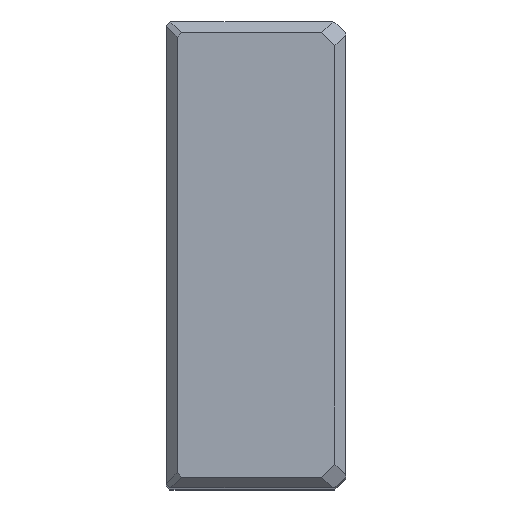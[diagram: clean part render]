
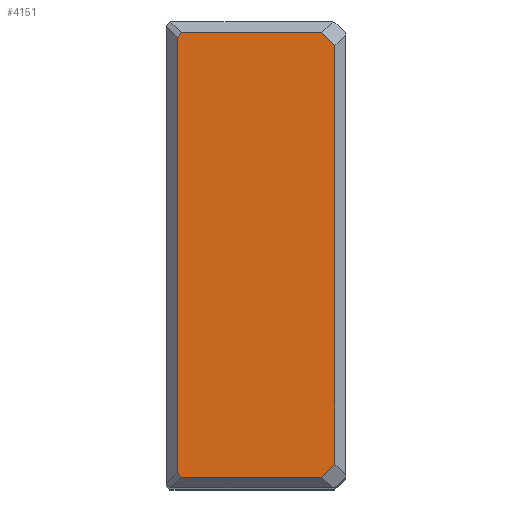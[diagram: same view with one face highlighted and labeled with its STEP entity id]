
A CAD part, top view. The second image highlights one B-rep face of the part: STEP entity #4151.
In plain terms, the highlighted planar face has unit normal (0, 0, 1).
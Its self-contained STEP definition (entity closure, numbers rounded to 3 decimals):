
#95=VERTEX_POINT(' ',#96);
#96=CARTESIAN_POINT('',(-3.,-58.326,0.));
#97=VERTEX_POINT(' ',#98);
#98=CARTESIAN_POINT('',(-6.674,-62.,0.));
#127=VERTEX_POINT(' ',#128);
#128=CARTESIAN_POINT('',(-3.,58.326,0.));
#135=VERTEX_POINT(' ',#136);
#136=CARTESIAN_POINT('',(-6.674,62.,0.));
#161=VERTEX_POINT(' ',#162);
#162=CARTESIAN_POINT('',(-45.775,-62.,0.));
#169=VERTEX_POINT(' ',#170);
#170=CARTESIAN_POINT('',(-47.,-60.775,0.));
#189=VERTEX_POINT(' ',#190);
#190=CARTESIAN_POINT('',(-47.,60.775,0.));
#193=VERTEX_POINT(' ',#194);
#194=CARTESIAN_POINT('',(-45.775,62.,0.));
#816=LINE('',#817,#818);
#817=CARTESIAN_POINT('',(27.663,-27.663,0.));
#818=VECTOR('',#819,1.);
#819=DIRECTION('',(0.707,0.707,0.));
#820=EDGE_CURVE(' ',#95,#97,#816,.F.);
#946=LINE('',#947,#948);
#947=CARTESIAN_POINT('',(-3.,-65.12,0.));
#948=VECTOR('',#949,1.);
#949=DIRECTION('',(0.,1.,0.));
#950=EDGE_CURVE(' ',#95,#127,#946,.T.);
#971=LINE('',#972,#973);
#972=CARTESIAN_POINT('',(27.663,27.663,0.));
#973=VECTOR('',#974,1.);
#974=DIRECTION('',(-0.707,0.707,0.));
#975=EDGE_CURVE(' ',#135,#127,#971,.F.);
#1121=LINE('',#1122,#1123);
#1122=CARTESIAN_POINT('',(-50.12,-62.,0.));
#1123=VECTOR('',#1124,1.);
#1124=DIRECTION('',(1.,0.,0.));
#1125=EDGE_CURVE(' ',#161,#97,#1121,.T.);
#1136=LINE('',#1137,#1138);
#1137=CARTESIAN_POINT('',(-53.888,-53.888,0.));
#1138=VECTOR('',#1139,1.);
#1139=DIRECTION('',(0.707,-0.707,0.));
#1140=EDGE_CURVE(' ',#161,#169,#1136,.F.);
#1233=LINE('',#1234,#1235);
#1234=CARTESIAN_POINT('',(-47.,-65.12,0.));
#1235=VECTOR('',#1236,1.);
#1236=DIRECTION('',(0.,1.,0.));
#1237=EDGE_CURVE(' ',#169,#189,#1233,.T.);
#1238=LINE('',#1239,#1240);
#1239=CARTESIAN_POINT('',(-53.888,53.888,0.));
#1240=VECTOR('',#1241,1.);
#1241=DIRECTION('',(-0.707,-0.707,0.));
#1242=EDGE_CURVE(' ',#189,#193,#1238,.F.);
#1243=LINE('',#1244,#1245);
#1244=CARTESIAN_POINT('',(-50.12,62.,0.));
#1245=VECTOR('',#1246,1.);
#1246=DIRECTION('',(1.,0.,0.));
#1247=EDGE_CURVE(' ',#135,#193,#1243,.F.);
#4136=ORIENTED_EDGE('',*,*,#1242,.F.);
#4137=ORIENTED_EDGE('',*,*,#1237,.F.);
#4138=ORIENTED_EDGE('',*,*,#1140,.F.);
#4139=ORIENTED_EDGE('',*,*,#1125,.T.);
#4140=ORIENTED_EDGE('',*,*,#820,.F.);
#4141=ORIENTED_EDGE('',*,*,#950,.T.);
#4142=ORIENTED_EDGE('',*,*,#975,.F.);
#4143=ORIENTED_EDGE('',*,*,#1247,.T.);
#4144=EDGE_LOOP('',(#4136,#4137,#4138,#4139,#4140,#4141,#4142,#4143));
#4145=FACE_OUTER_BOUND('',#4144,.T.);
#4146=PLANE('',#4147);
#4147=AXIS2_PLACEMENT_3D('',#4148,#4149,#4150);
#4148=CARTESIAN_POINT('',(-47.,0.,0.));
#4149=DIRECTION('',(0.,0.,1.));
#4150=DIRECTION('',(1.,0.,0.));
#4151=ADVANCED_FACE('',(#4145),#4146,.T.);
